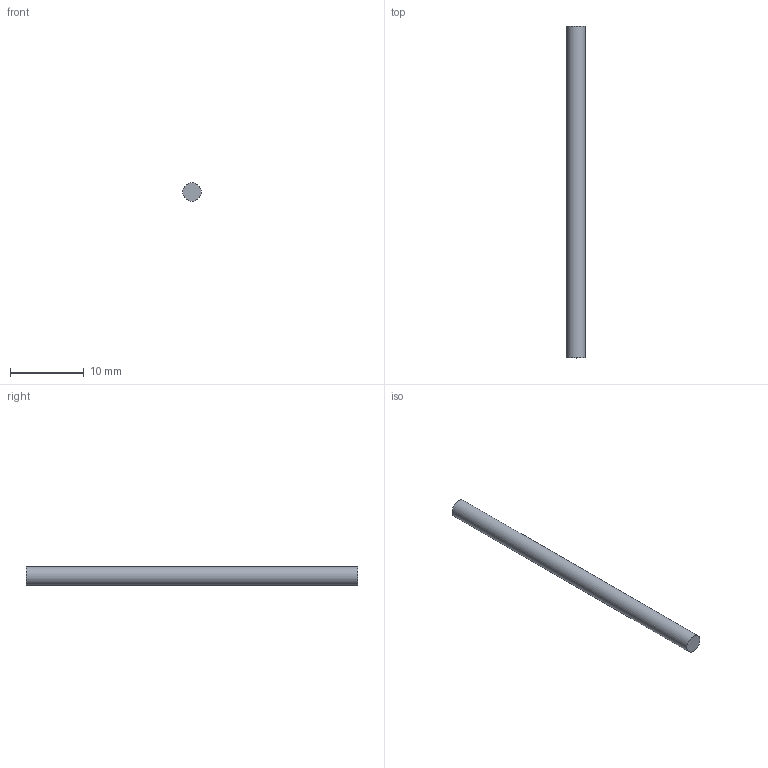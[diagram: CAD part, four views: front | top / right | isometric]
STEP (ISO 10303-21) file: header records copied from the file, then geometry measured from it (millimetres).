
FILE_DESCRIPTION(/* description */ ('STEP AP242 Edition 2','CAx-IF Rec.Pracs.---Representation and Presentation of Product Manufacturing Information (PMI)---4.0---2014-10-13','CAx-IF Rec.Pracs.---3D Tessellated Geometry---0.4---2014-09-14','2;1','CAx-IF Rec.Pracs.---User Defined Attributes---1.5---2016-08-15'),/* implementation_level */ '2;1');
FILE_NAME(/* name */ 'bb_v3 - guide-rod-mockup2',/* time_stamp */ '2026-05-01T07:59:50Z',/* author */ (''),/* organization */ (''),/* preprocessor_version */ 'ST-DEVELOPER v20',/* originating_system */ 'ONSHAPE BY PTC INC, 1.214',/* authorisation */ ' ');
FILE_SCHEMA (('AP242_MANAGED_MODEL_BASED_3D_ENGINEERING_MIM_LF { 1 0 10303 442 3 1 4 }'));
Length unit declared in the file: metre
Products named in the file (1): guide-rod-mockup2
Bounding box: 2.5 x 45 x 2.5 mm (x, y, z)
Volume: 220.9 mm3; surface area: 363.2 mm2
Topology: 1 solids, 1 shells, 3 faces, 3 edges, 2 vertices
Faces by surface type: plane 2, cylinder 1
Full cylindrical faces by diameter (mm): 2.5 x1
Entity records: 76 total; most frequent: DIRECTION 12, CARTESIAN_POINT 8, AXIS2_PLACEMENT_3D 6, ORIENTED_EDGE 4, EDGE_LOOP 4, FACE_BOUND 4, ADVANCED_FACE 3, PLANE 2
